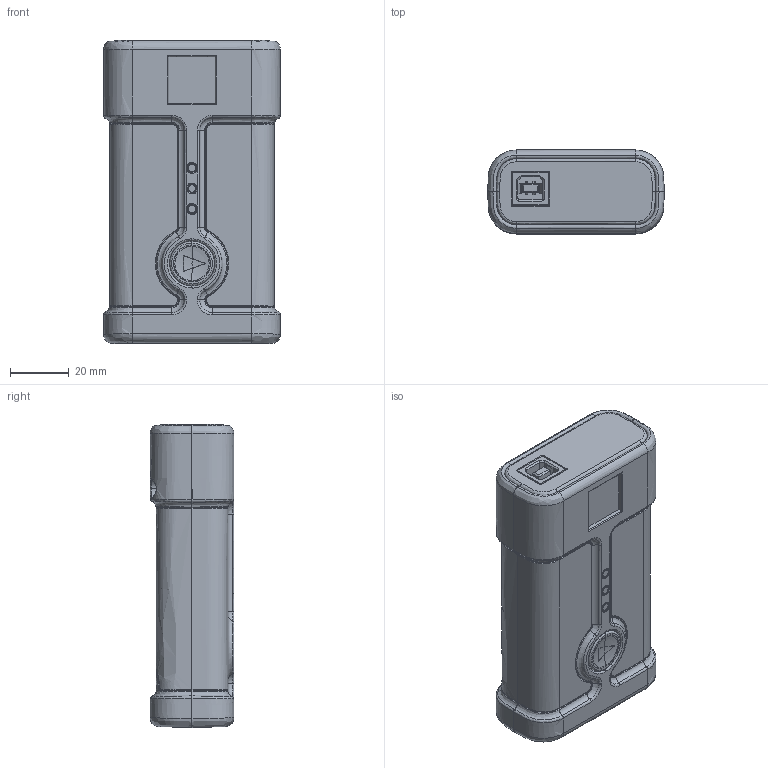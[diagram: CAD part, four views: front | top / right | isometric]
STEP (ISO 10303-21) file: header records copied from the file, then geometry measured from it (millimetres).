
FILE_DESCRIPTION (( 'STEP AP214' ), '1' );
FILE_NAME ('XJLink2_Case_Connectors.STEP', '2024-06-05T15:33:38', ( '' ), ( '' ), 'SwSTEP 2.0', 'SolidWorks 2024', '' );
FILE_SCHEMA (( 'AUTOMOTIVE_DESIGN' ));
Length unit declared in the file: millimetre
Products named in the file (4): XJLink Connector; USB XJLINK; XJLink2_Case_Connectors; XJLink2
Assembly tree (3 placements, depth 2):
  XJLink2_Case_Connectors
    XJLink2
    USB XJLINK
    XJLink Connector
Bounding box: 60 x 28.4 x 103 mm (x, y, z)
Volume: 59571.3 mm3; surface area: 65767.8 mm2
Topology: 13 solids, 13 shells, 3037 faces, 7476 edges, 4479 vertices
Faces by surface type: bspline 2051, plane 908, cylinder 68, sphere 8, cone 2
Entity records: 356672 total; most frequent: CARTESIAN_POINT 296842, ORIENTED_EDGE 14916, EDGE_CURVE 7458, DIRECTION 5370, VERTEX_POINT 4471, B_SPLINE_CURVE_WITH_KNOTS 4166, LINE 3134, VECTOR 3134
